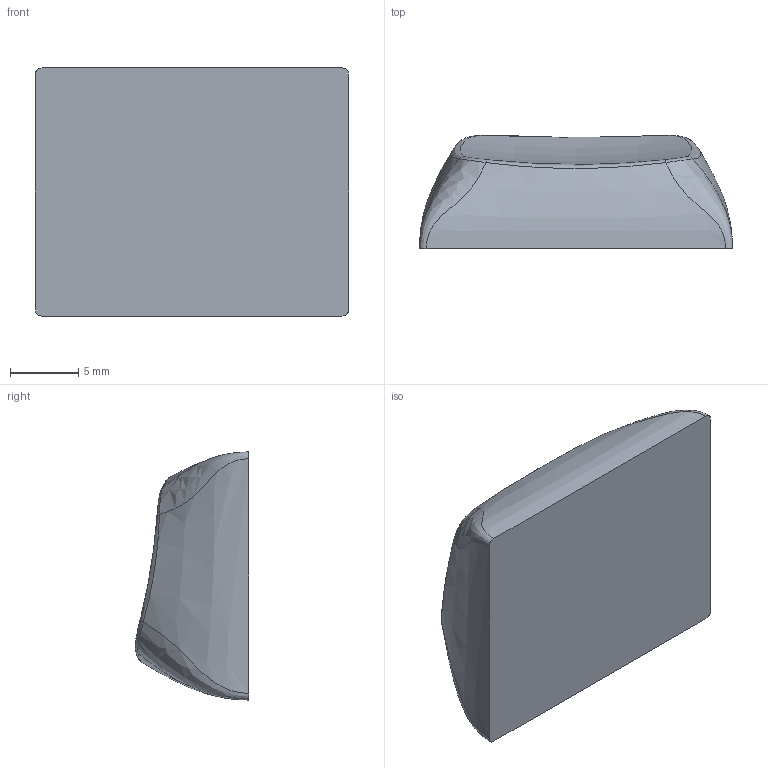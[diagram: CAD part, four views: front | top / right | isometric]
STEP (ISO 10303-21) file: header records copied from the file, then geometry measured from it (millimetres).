
FILE_DESCRIPTION (( 'STEP AP203' ), '1' );
FILE_NAME ('R4_1,25U_base_v3.2_GMK.STEP', '2023-03-07T10:11:17', ( '' ), ( '' ), 'SwSTEP 2.0', 'SolidWorks 2022', '' );
FILE_SCHEMA (( 'CONFIG_CONTROL_DESIGN' ));
Length unit declared in the file: millimetre
Products named in the file (1): R4_1,25U_base_v3.2_GMK
Bounding box: 22.96 x 8.34 x 18.2 mm (x, y, z)
Volume: 2452 mm3; surface area: 1211 mm2
Topology: 1 solids, 1 shells, 18 faces, 40 edges, 24 vertices
Faces by surface type: bspline 17, plane 1
Entity records: 2079 total; most frequent: CARTESIAN_POINT 1748, ORIENTED_EDGE 80, EDGE_CURVE 40, B_SPLINE_CURVE_WITH_KNOTS 36, VERTEX_POINT 24, FACE_OUTER_BOUND 18, ADVANCED_FACE 18, EDGE_LOOP 18
